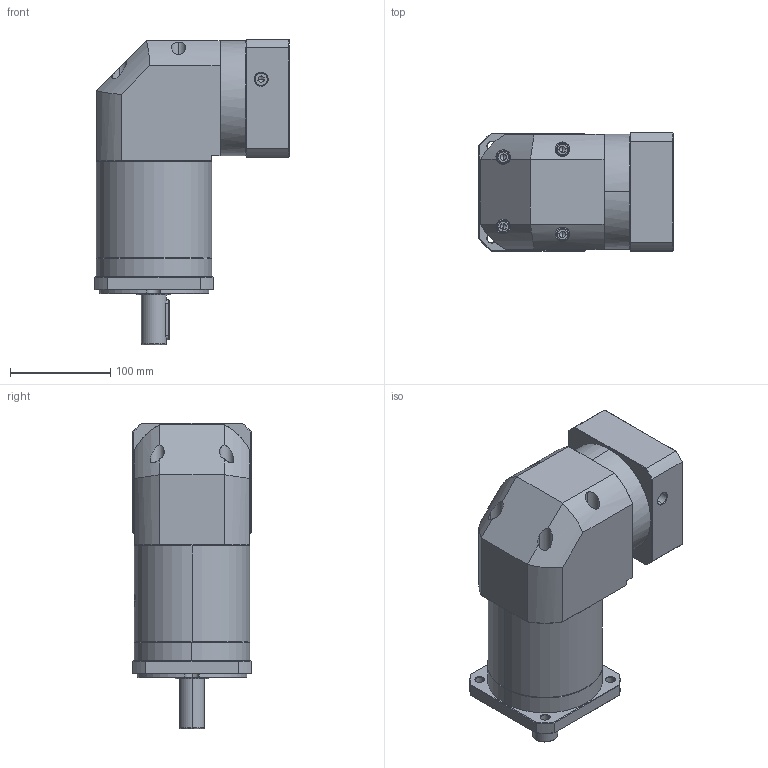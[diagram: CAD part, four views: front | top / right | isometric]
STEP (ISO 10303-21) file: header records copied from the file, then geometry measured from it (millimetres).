
FILE_DESCRIPTION (( 'STEP AP214' ), '1' );
FILE_NAME ('ZFR120A-D25-L3-P2-19-95-115-M8.step', '2023-08-27T08:04:45', ( '' ), ( '' ), 'SwSTEP 2.0', 'SolidWorks 2016', '' );
FILE_SCHEMA (( 'AUTOMOTIVE_DESIGN' ));
Length unit declared in the file: millimetre
Products named in the file (1): ZFR120A-D25-L3-P2-19-95-115-M8
Bounding box: 193.9 x 118 x 305 mm (x, y, z)
Volume: 3489968.2 mm3; surface area: 264676.2 mm2
Topology: 6 solids, 6 shells, 2264 faces, 5986 edges, 3827 vertices
Faces by surface type: plane 1061, cylinder 434, bspline 424, cone 337, torus 8
Entity records: 124153 total; most frequent: CARTESIAN_POINT 48697, ORIENTED_EDGE 11912, DIRECTION 8640, EDGE_CURVE 5956, VERTEX_POINT 3827, VECTOR 3158, LINE 3158, AXIS2_PLACEMENT_3D 2741
